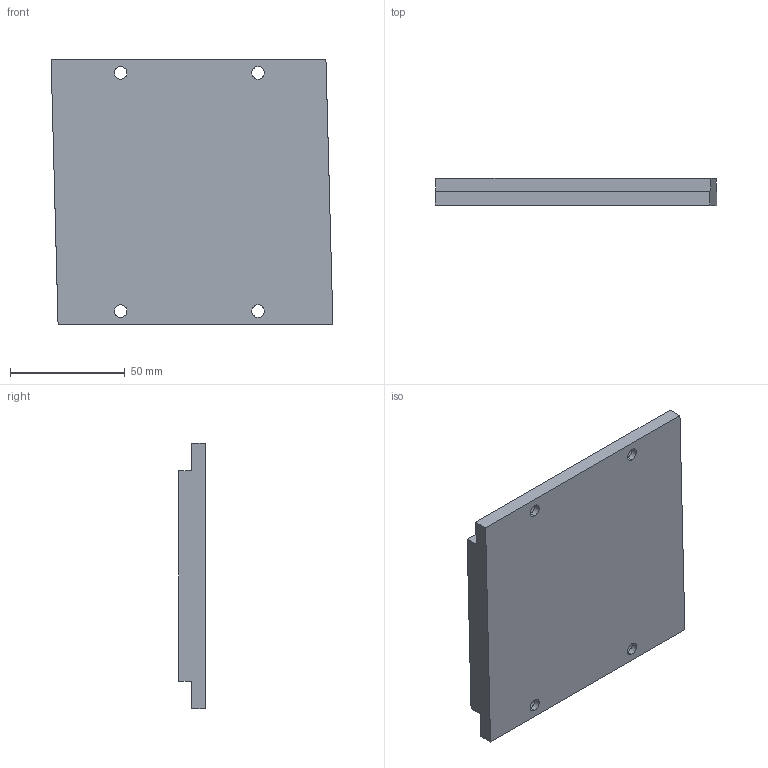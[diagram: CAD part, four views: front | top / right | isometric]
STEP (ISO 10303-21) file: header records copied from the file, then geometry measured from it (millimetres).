
FILE_DESCRIPTION (( 'STEP AP214' ), '1' );
FILE_NAME ('LMSA3S1E.STEP', '2013-07-30T02:20:12', ( 'user' ), ( '' ), 'SwSTEP 2.0', 'SolidWorks 2010', '' );
FILE_SCHEMA (( 'AUTOMOTIVE_DESIGN' ));
Length unit declared in the file: millimetre
Products named in the file (1): LMSA3S1E
Bounding box: 123.04 x 11.7 x 116 mm (x, y, z)
Volume: 145388.1 mm3; surface area: 33528.8 mm2
Topology: 1 solids, 1 shells, 57 faces, 147 edges, 98 vertices
Faces by surface type: plane 30, cylinder 16, bspline 11
Entity records: 2573 total; most frequent: CARTESIAN_POINT 1170, ORIENTED_EDGE 294, DIRECTION 251, EDGE_CURVE 147, VERTEX_POINT 98, LINE 93, VECTOR 93, AXIS2_PLACEMENT_3D 79
